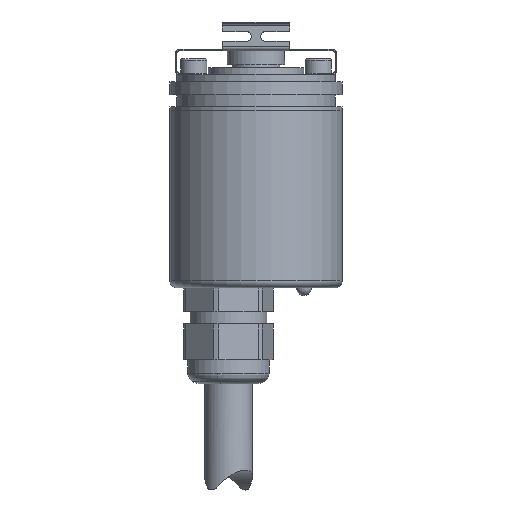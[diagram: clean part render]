
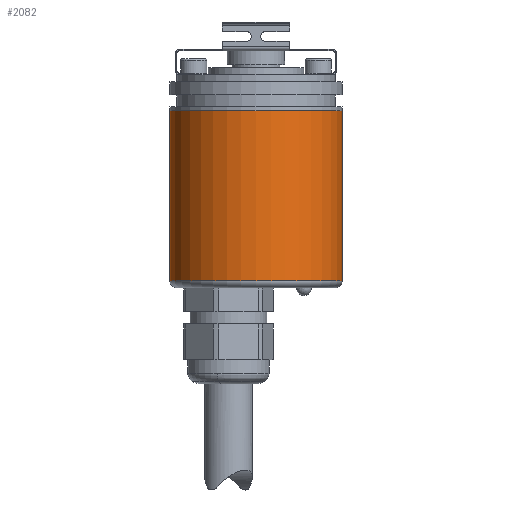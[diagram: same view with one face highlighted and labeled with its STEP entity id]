
A CAD part, front view. The second image highlights one B-rep face of the part: STEP entity #2082.
In plain terms, the highlighted cylindrical face has radius 18 mm (diameter 36 mm), a full revolution.
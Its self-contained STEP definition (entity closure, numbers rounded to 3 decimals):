
#188 = EDGE_LOOP ( 'NONE', ( #1619 ) ) ;
#628 = CARTESIAN_POINT ( 'NONE',  ( -28.881, -25.571, -26.464 ) ) ;
#783 = CARTESIAN_POINT ( 'NONE',  ( -46.881, -25.571, 9.036 ) ) ;
#992 = AXIS2_PLACEMENT_3D ( 'NONE', #8019, #11841, #10076 ) ;
#1180 = CIRCLE ( 'NONE', #11557, 18. ) ;
#1592 = ORIENTED_EDGE ( 'NONE', *, *, #1871, .F. ) ;
#1619 = ORIENTED_EDGE ( 'NONE', *, *, #10369, .F. ) ;
#1871 = EDGE_CURVE ( 'NONE', #4649, #4649, #1180, .T. ) ;
#2028 = DIRECTION ( 'NONE',  ( -1., 0., 0. ) ) ;
#2082 = ADVANCED_FACE ( 'NONE', ( #2968, #6788 ), #10597, .T. ) ;
#2968 = FACE_OUTER_BOUND ( 'NONE', #9332, .T. ) ;
#2983 = CIRCLE ( 'NONE', #992, 18. ) ;
#4314 = VERTEX_POINT ( 'NONE', #628 ) ;
#4649 = VERTEX_POINT ( 'NONE', #7517 ) ;
#5033 = CARTESIAN_POINT ( 'NONE',  ( -46.881, -25.571, 9.036 ) ) ;
#5111 = AXIS2_PLACEMENT_3D ( 'NONE', #5033, #7893, #2028 ) ;
#6788 = FACE_OUTER_BOUND ( 'NONE', #188, .T. ) ;
#7517 = CARTESIAN_POINT ( 'NONE',  ( -64.881, -25.571, 9.036 ) ) ;
#7893 = DIRECTION ( 'NONE',  ( 0., 0., -1. ) ) ;
#8019 = CARTESIAN_POINT ( 'NONE',  ( -46.881, -25.571, -26.464 ) ) ;
#8336 = DIRECTION ( 'NONE',  ( -1., 0., 0. ) ) ;
#9332 = EDGE_LOOP ( 'NONE', ( #1592 ) ) ;
#10076 = DIRECTION ( 'NONE',  ( 1., 0., 0. ) ) ;
#10337 = DIRECTION ( 'NONE',  ( 0., 0., 1. ) ) ;
#10369 = EDGE_CURVE ( 'NONE', #4314, #4314, #2983, .T. ) ;
#10597 = CYLINDRICAL_SURFACE ( 'NONE', #5111, 18. ) ;
#11557 = AXIS2_PLACEMENT_3D ( 'NONE', #783, #10337, #8336 ) ;
#11841 = DIRECTION ( 'NONE',  ( 0., 0., -1. ) ) ;
